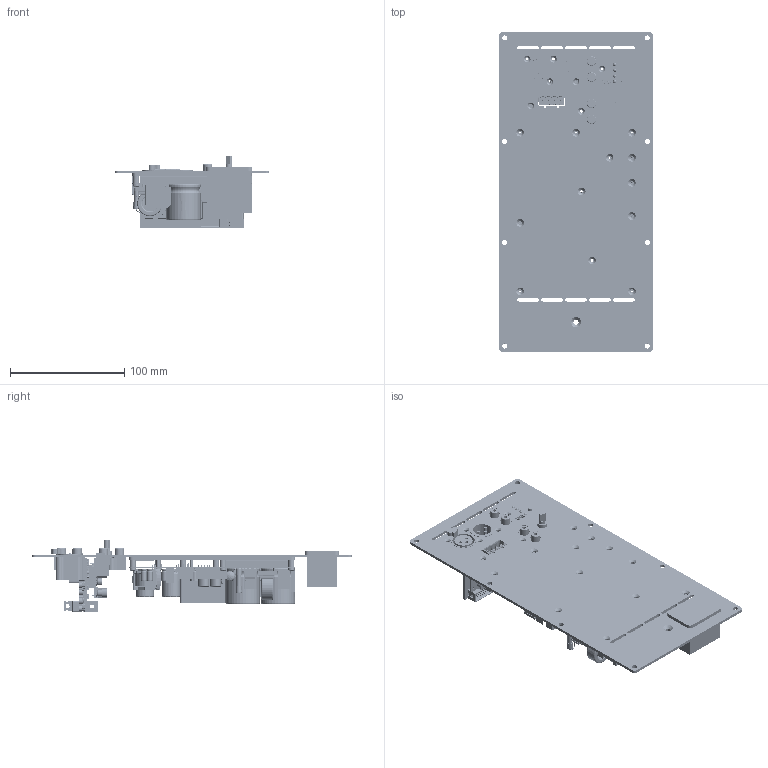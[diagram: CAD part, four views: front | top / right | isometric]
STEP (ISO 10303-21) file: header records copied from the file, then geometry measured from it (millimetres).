
FILE_DESCRIPTION (( 'STEP AP214' ), '1' );
FILE_NAME ('FusionAMP FA501 01xx.STEP', '2018-04-04T12:35:59', ( '' ), ( '' ), 'SwSTEP 2.0', 'SolidWorks 2017', '' );
FILE_SCHEMA (( 'AUTOMOTIVE_DESIGN' ));
Length unit declared in the file: millimetre
Products named in the file (6): IEC Euro Switch; PCBA MP-DSP Main B01; Frontplate FA501; PCBA MP-DSP Subin B01; NC500MP 01xx; FusionAMP FA501 01xx
Assembly tree (5 placements, depth 2):
  FusionAMP FA501 01xx
    PCBA MP-DSP Subin B01
    NC500MP 01xx
    PCBA MP-DSP Main B01
    IEC Euro Switch
    Frontplate FA501
Bounding box: 135 x 280 x 63.15 mm (x, y, z)
Volume: 136094.2 mm3; surface area: 263186.1 mm2
Topology: 126 solids, 702 shells, 23644 faces, 60834 edges, 38277 vertices
Faces by surface type: plane 12803, cylinder 5927, bspline 3942, torus 618, sphere 290, cone 64
Entity records: 1083002 total; most frequent: CARTESIAN_POINT 269262, ORIENTED_EDGE 116441, DIRECTION 106155, EDGE_CURVE 59881, VERTEX_POINT 38262, LINE 38197, VECTOR 38197, AXIS2_PLACEMENT_3D 33979
